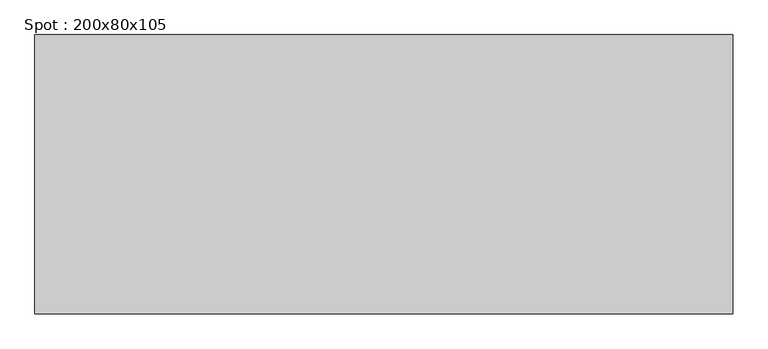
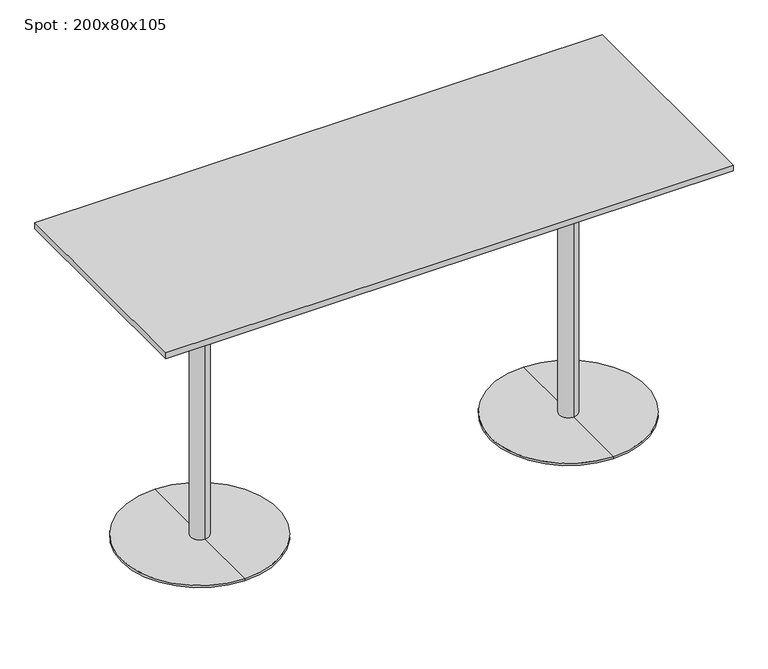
"""IFC4 building model written with IfcOpenShell, lengths in millimetres: furniture geometry, Spot : 200x80x105."""

from ifc_helpers import new_model, si_unit, frame, origin, place, context, project, spatial, polyline, circle_curve, outline, extrude, source, transform, mapped, element, save
from ifc_brep_helpers import plane_surface, cylinder_surface, revolved_surface, advanced_brep


def spot_200x80x105_e37a2b01(model_context):
    return source(origin(), model_context, "Body", "SolidModel", [
        extrude(outline(polyline([(1000.0, 400.0), (1000.0, -400.0), (-1000.0, -400.0), (-1000.0, 400.0), (1000.0, 400.0)])), frame((0.0, 0.0, 1028.0), z_axis=(0.0, 0.0, 1.0), x_axis=(1.0, 0.0, 0.0)), (0.0, 0.0, 1.0), 22.0),
        advanced_brep(
        [(-650.0, 32.0, 10.0), (-650.0, -32.0, 10.0), (-650.0, -32.0, 997.406916), (-650.0, 32.0, 997.406916), (-650.0, 275.0, 10.0), (-650.0, -275.0, 10.0), (-650.0, 275.0, 2.0), (-650.0, -275.0, 2.0), (-650.0, 0.0, 2.0), (-650.0, 150.0, 1028.0), (-650.0, -150.0, 1028.0), (-650.0, 0.0, 1028.0), (-650.0, 150.0, 1016.7213673), (-650.0, -150.0, 1016.7213673)],
        [
            (0, 1, circle_curve(frame((-650.0, 0.0, 10.0), z_axis=(0.0, 0.0, 1.0), x_axis=(0.0, -1.0, 0.0)), 32.0)),
            (1, 2),
            (2, 3, circle_curve(frame((-650.0, 0.0, 997.406916), z_axis=(0.0, 0.0, -1.0), x_axis=(0.0, -1.0, 0.0)), 32.0)),
            (3, 0),
            (1, 0, circle_curve(frame((-650.0, 0.0, 10.0), z_axis=(0.0, 0.0, 1.0), x_axis=(0.0, -1.0, 0.0)), 32.0)),
            (3, 2, circle_curve(frame((-650.0, 0.0, 997.406916), z_axis=(0.0, 0.0, -1.0), x_axis=(0.0, -1.0, 0.0)), 32.0)),
            (4, 5, circle_curve(frame((-650.0, 0.0, 10.0), z_axis=(0.0, 0.0, 1.0), x_axis=(0.0, -1.0, 0.0)), 275.0)),
            (5, 1),
            (0, 4),
            (5, 4, circle_curve(frame((-650.0, 0.0, 10.0), z_axis=(0.0, 0.0, 1.0), x_axis=(0.0, -1.0, 0.0)), 275.0)),
            (6, 7, circle_curve(frame((-650.0, 0.0, 2.0), z_axis=(0.0, 0.0, 1.0), x_axis=(0.0, -1.0, 0.0)), 275.0)),
            (7, 5),
            (4, 6),
            (7, 6, circle_curve(frame((-650.0, 0.0, 2.0), z_axis=(0.0, 0.0, 1.0), x_axis=(0.0, -1.0, 0.0)), 275.0)),
            (8, 7),
            (6, 8),
            (9, 10, circle_curve(frame((-650.0, 0.0, 1028.0), z_axis=(0.0, 0.0, 1.0), x_axis=(0.0, -1.0, 0.0)), 150.0)),
            (10, 11),
            (11, 9),
            (10, 9, circle_curve(frame((-650.0, 0.0, 1028.0), z_axis=(0.0, 0.0, 1.0), x_axis=(0.0, -1.0, 0.0)), 150.0)),
            (12, 13, circle_curve(frame((-650.0, 0.0, 1016.7213673), z_axis=(0.0, 0.0, 1.0), x_axis=(0.0, -1.0, 0.0)), 150.0)),
            (13, 10),
            (9, 12),
            (13, 12, circle_curve(frame((-650.0, 0.0, 1016.7213673), z_axis=(0.0, 0.0, 1.0), x_axis=(0.0, -1.0, 0.0)), 150.0)),
            (2, 13),
            (12, 3),
        ],
        [
            cylinder_surface(frame((-650.0, 0.0, 1390.0), z_axis=(0.0, 0.0, -1.0), x_axis=(0.0, -1.0, 0.0)), 32.0),
            plane_surface(frame((-650.0, 0.0, 10.0), z_axis=(0.0, 0.0, 1.0), x_axis=(0.0, -1.0, 0.0))),
            cylinder_surface(frame((-650.0, 0.0, 1390.0), z_axis=(0.0, 0.0, -1.0), x_axis=(0.0, -1.0, 0.0)), 275.0),
            plane_surface(frame((-650.0, 0.0, 2.0), z_axis=(0.0, 0.0, -1.0), x_axis=(0.0, -1.0, 0.0))),
            plane_surface(frame((-650.0, 0.0, 1028.0), z_axis=(0.0, 0.0, 1.0), x_axis=(0.0, -1.0, 0.0))),
            cylinder_surface(frame((-650.0, 0.0, 1390.0), z_axis=(0.0, 0.0, -1.0), x_axis=(0.0, -1.0, 0.0)), 150.0),
            revolved_surface(polyline([(-650.0, -150.0, 1016.7213673), (-650.0, -32.0, 997.406916)]), (-650.0, 0.0, 1390.0), (0.0, 0.0, -1.0)),
        ],
        [
            (0, [[1, 2, 3, 4]]),
            (0, [[5, -4, 6, -2]]),
            (1, [[7, 8, -1, 9]]),
            (1, [[10, -9, -5, -8]]),
            (2, [[11, 12, -7, 13]]),
            (2, [[14, -13, -10, -12]]),
            (3, [[15, -11, 16]]),
            (3, [[-16, -14, -15]]),
            (4, [[17, 18, 19]]),
            (4, [[20, -19, -18]]),
            (5, [[21, 22, -17, 23]]),
            (5, [[24, -23, -20, -22]]),
            (6, [[-3, 25, -21, 26]]),
            (6, [[-6, -26, -24, -25]]),
        ],
    ),
        advanced_brep(
        [(650.0, 32.0, 10.0), (650.0, -32.0, 10.0), (650.0, -32.0, 997.406916), (650.0, 32.0, 997.406916), (650.0, 275.0, 10.0), (650.0, -275.0, 10.0), (650.0, 275.0, 2.0), (650.0, -275.0, 2.0), (650.0, 0.0, 2.0), (650.0, 150.0, 1028.0), (650.0, -150.0, 1028.0), (650.0, 0.0, 1028.0), (650.0, 150.0, 1016.7213673), (650.0, -150.0, 1016.7213673)],
        [
            (0, 1, circle_curve(frame((650.0, 0.0, 10.0), z_axis=(0.0, 0.0, 1.0), x_axis=(0.0, -1.0, 0.0)), 32.0)),
            (1, 2),
            (2, 3, circle_curve(frame((650.0, 0.0, 997.406916), z_axis=(0.0, 0.0, -1.0), x_axis=(0.0, -1.0, 0.0)), 32.0)),
            (3, 0),
            (1, 0, circle_curve(frame((650.0, 0.0, 10.0), z_axis=(0.0, 0.0, 1.0), x_axis=(0.0, -1.0, 0.0)), 32.0)),
            (3, 2, circle_curve(frame((650.0, 0.0, 997.406916), z_axis=(0.0, 0.0, -1.0), x_axis=(0.0, -1.0, 0.0)), 32.0)),
            (4, 5, circle_curve(frame((650.0, 0.0, 10.0), z_axis=(0.0, 0.0, 1.0), x_axis=(0.0, -1.0, 0.0)), 275.0)),
            (5, 1),
            (0, 4),
            (5, 4, circle_curve(frame((650.0, 0.0, 10.0), z_axis=(0.0, 0.0, 1.0), x_axis=(0.0, -1.0, 0.0)), 275.0)),
            (6, 7, circle_curve(frame((650.0, 0.0, 2.0), z_axis=(0.0, 0.0, 1.0), x_axis=(0.0, -1.0, 0.0)), 275.0)),
            (7, 5),
            (4, 6),
            (7, 6, circle_curve(frame((650.0, 0.0, 2.0), z_axis=(0.0, 0.0, 1.0), x_axis=(0.0, -1.0, 0.0)), 275.0)),
            (8, 7),
            (6, 8),
            (9, 10, circle_curve(frame((650.0, 0.0, 1028.0), z_axis=(0.0, 0.0, 1.0), x_axis=(0.0, -1.0, 0.0)), 150.0)),
            (10, 11),
            (11, 9),
            (10, 9, circle_curve(frame((650.0, 0.0, 1028.0), z_axis=(0.0, 0.0, 1.0), x_axis=(0.0, -1.0, 0.0)), 150.0)),
            (12, 13, circle_curve(frame((650.0, 0.0, 1016.7213673), z_axis=(0.0, 0.0, 1.0), x_axis=(0.0, -1.0, 0.0)), 150.0)),
            (13, 10),
            (9, 12),
            (13, 12, circle_curve(frame((650.0, 0.0, 1016.7213673), z_axis=(0.0, 0.0, 1.0), x_axis=(0.0, -1.0, 0.0)), 150.0)),
            (2, 13),
            (12, 3),
        ],
        [
            cylinder_surface(frame((650.0, 0.0, 1390.0), z_axis=(0.0, 0.0, -1.0), x_axis=(0.0, -1.0, 0.0)), 32.0),
            plane_surface(frame((650.0, 0.0, 10.0), z_axis=(0.0, 0.0, 1.0), x_axis=(0.0, -1.0, 0.0))),
            cylinder_surface(frame((650.0, 0.0, 1390.0), z_axis=(0.0, 0.0, -1.0), x_axis=(0.0, -1.0, 0.0)), 275.0),
            plane_surface(frame((650.0, 0.0, 2.0), z_axis=(0.0, 0.0, -1.0), x_axis=(0.0, -1.0, 0.0))),
            plane_surface(frame((650.0, 0.0, 1028.0), z_axis=(0.0, 0.0, 1.0), x_axis=(0.0, -1.0, 0.0))),
            cylinder_surface(frame((650.0, 0.0, 1390.0), z_axis=(0.0, 0.0, -1.0), x_axis=(0.0, -1.0, 0.0)), 150.0),
            revolved_surface(polyline([(650.0, -150.0, 1016.7213673), (650.0, -32.0, 997.406916)]), (650.0, 0.0, 1390.0), (0.0, 0.0, -1.0)),
        ],
        [
            (0, [[1, 2, 3, 4]]),
            (0, [[5, -4, 6, -2]]),
            (1, [[7, 8, -1, 9]]),
            (1, [[10, -9, -5, -8]]),
            (2, [[11, 12, -7, 13]]),
            (2, [[14, -13, -10, -12]]),
            (3, [[15, -11, 16]]),
            (3, [[-16, -14, -15]]),
            (4, [[17, 18, 19]]),
            (4, [[20, -19, -18]]),
            (5, [[21, 22, -17, 23]]),
            (5, [[24, -23, -20, -22]]),
            (6, [[-3, 25, -21, 26]]),
            (6, [[-6, -26, -24, -25]]),
        ],
    ),
    ])


if __name__ == "__main__":
    model = new_model("IFC4")
    model_context = context("Model", 3, world=origin())
    ifc_project = project(units=[si_unit("LENGTHUNIT", "METRE", prefix="MILLI")], contexts=[model_context])
    site = spatial("IfcSite", under=ifc_project)
    building = spatial("IfcBuilding", under=site)
    placement = place(None, origin())
    spot_200x80x105_shape = spot_200x80x105_e37a2b01(model_context)
    element("IfcFurniture", 1, ObjectType="Spot : 200x80x105", at=placement, inside=building, context=model_context, shape_type="MappedRepresentation", body=[
        mapped(spot_200x80x105_shape, transform((0.0, 0.0, 0.0), x_axis=(1.0, 0.0, 0.0), y_axis=(0.0, 1.0, 0.0), z_axis=(0.0, 0.0, 1.0))),
    ])
    save(model, "model.ifc")
